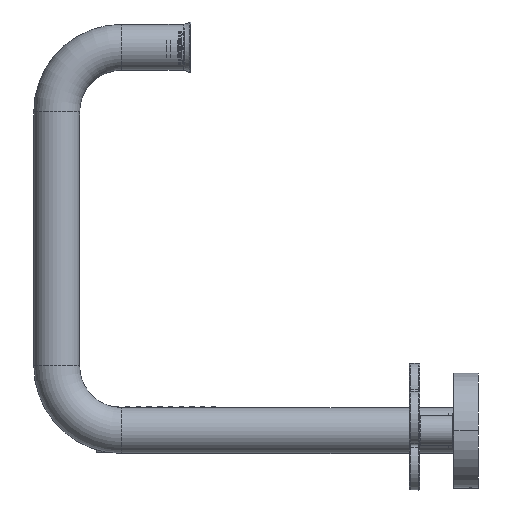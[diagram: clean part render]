
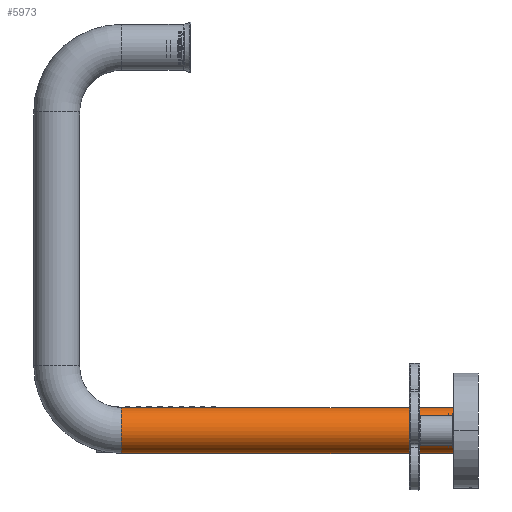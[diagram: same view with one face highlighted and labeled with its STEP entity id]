
A CAD part, left-side view. The second image highlights one B-rep face of the part: STEP entity #5973.
In plain terms, the highlighted cylindrical face has radius 12 mm (diameter 24 mm), a partial arc.
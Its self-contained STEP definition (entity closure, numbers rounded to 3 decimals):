
#4197=DIRECTION('',(0.,1.,0.));
#4198=VECTOR('',#4197,173.25);
#4199=CARTESIAN_POINT('',(100.,162.2,12.));
#4200=LINE('',#4199,#4198);
#4216=CARTESIAN_POINT('',(100.,162.2,0.));
#4217=DIRECTION('',(0.,1.,0.));
#4218=DIRECTION('',(0.,0.,-1.));
#4219=AXIS2_PLACEMENT_3D('',#4216,#4217,#4218);
#4257=DIRECTION('',(0.,1.,0.));
#4258=VECTOR('',#4257,173.25);
#4259=CARTESIAN_POINT('',(100.,162.2,-12.));
#4260=LINE('',#4259,#4258);
#4261=CARTESIAN_POINT('',(100.,335.45,0.));
#4262=DIRECTION('',(0.,1.,0.));
#4263=DIRECTION('',(0.,0.,-1.));
#4264=AXIS2_PLACEMENT_3D('',#4261,#4262,#4263);
#4336=CARTESIAN_POINT('',(100.,335.45,12.));
#4337=CARTESIAN_POINT('',(100.,335.45,-12.));
#4338=VERTEX_POINT('',#4336);
#4339=VERTEX_POINT('',#4337);
#4388=CARTESIAN_POINT('',(100.,162.2,12.));
#4389=CARTESIAN_POINT('',(100.,162.2,-12.));
#4390=VERTEX_POINT('',#4388);
#4391=VERTEX_POINT('',#4389);
#5961=CARTESIAN_POINT('',(100.,162.2,0.));
#5962=DIRECTION('',(0.,1.,0.));
#5963=DIRECTION('',(0.,0.,1.));
#5964=AXIS2_PLACEMENT_3D('',#5961,#5962,#5963);
#5965=CYLINDRICAL_SURFACE('',#5964,12.);
#5966=ORIENTED_EDGE('',*,*,#5848,.F.);
#5967=ORIENTED_EDGE('',*,*,#5824,.T.);
#5969=ORIENTED_EDGE('',*,*,#5968,.T.);
#5970=ORIENTED_EDGE('',*,*,#5821,.F.);
#5971=EDGE_LOOP('',(#5966,#5967,#5969,#5970));
#5972=FACE_OUTER_BOUND('',#5971,.F.);
#4220=CIRCLE('',#4219,12.);
#4265=CIRCLE('',#4264,12.);
#5821=EDGE_CURVE('',#4390,#4338,#4200,.T.);
#5824=EDGE_CURVE('',#4391,#4339,#4260,.T.);
#5848=EDGE_CURVE('',#4391,#4390,#4220,.T.);
#5968=EDGE_CURVE('',#4339,#4338,#4265,.T.);
#5973=ADVANCED_FACE('',(#5972),#5965,.T.);
